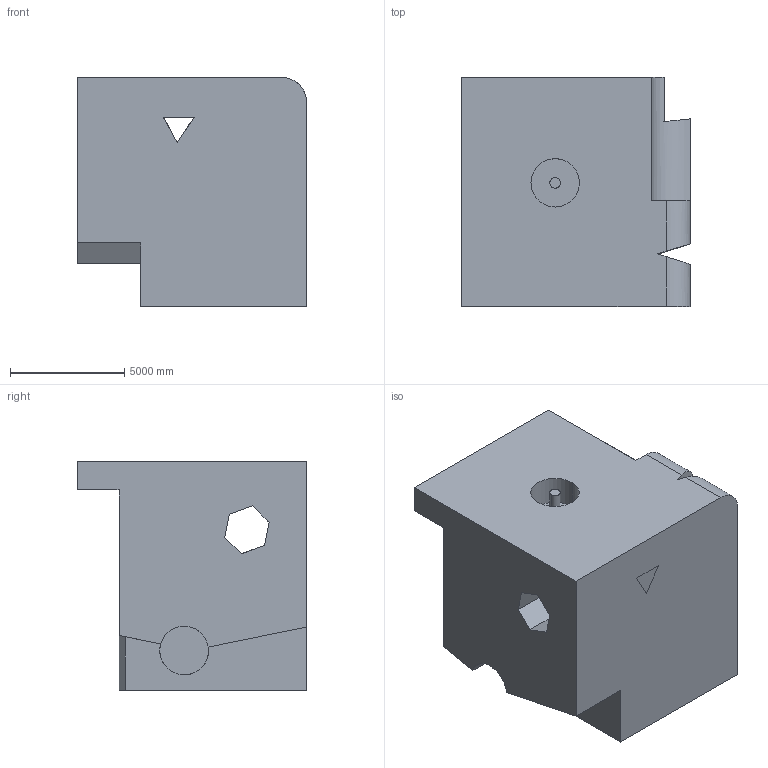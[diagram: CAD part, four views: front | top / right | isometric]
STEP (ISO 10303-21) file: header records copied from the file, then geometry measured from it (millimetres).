
FILE_DESCRIPTION (( 'STEP AP203' ), '1' );
FILE_NAME ('1841.STEP', '2022-08-19T13:25:50', ( 'user' ), ( '' ), 'SwSTEP 2.0', 'SolidWorks 2021', '' );
FILE_SCHEMA (( 'CONFIG_CONTROL_DESIGN' ));
Length unit declared in the file: centimetre
Products named in the file (1): 1841
Bounding box: 10000 x 10000 x 10000 mm (x, y, z)
Volume: 698742501543.4 mm3; surface area: 675415357.7 mm2
Topology: 1 solids, 1 shells, 41 faces, 123 edges, 82 vertices
Faces by surface type: plane 32, cylinder 9
Entity records: 1464 total; most frequent: CARTESIAN_POINT 256, ORIENTED_EDGE 246, DIRECTION 222, EDGE_CURVE 123, VECTOR 102, LINE 102, VERTEX_POINT 82, AXIS2_PLACEMENT_3D 60
